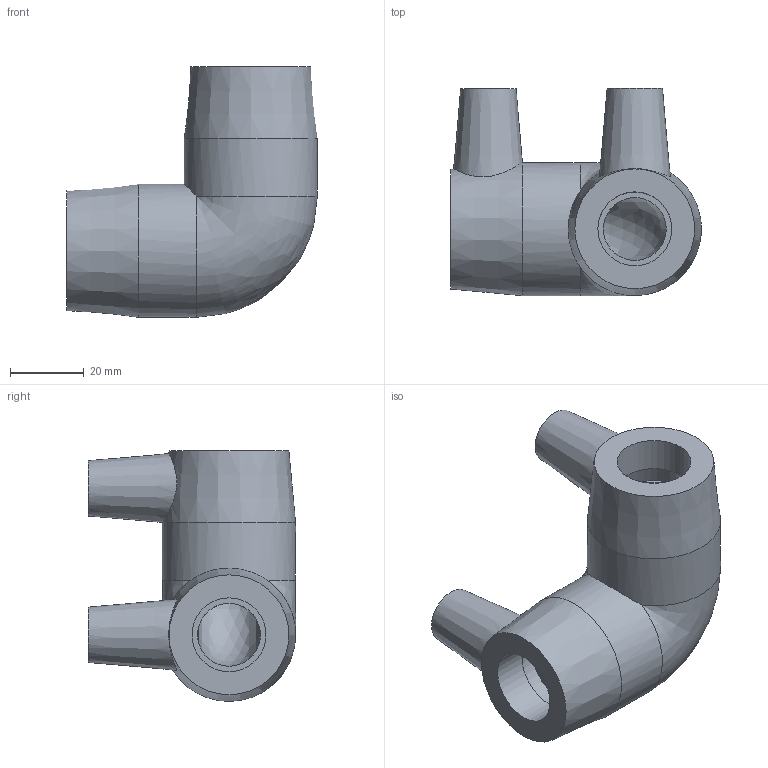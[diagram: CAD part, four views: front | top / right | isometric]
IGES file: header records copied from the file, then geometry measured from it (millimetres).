
Global section: file name: 490504020.ipt; native system: Autodesk Inventor 2015; preprocessor: unknown; author: KIM; date: 20171106.093623; units: millimetre
Bounding box: 67.79 x 56 x 67.8 mm (x, y, z)
Volume: 71556.1 mm3; surface area: 20640.1 mm2
Topology: 1 solids, 1 shells, 32 faces, 70 edges, 46 vertices
Faces by surface type: plane 12, revolution 11, cylinder 4, cone 4, bspline 1
Full cylindrical faces by diameter (mm): 4 x2, 36 x2
